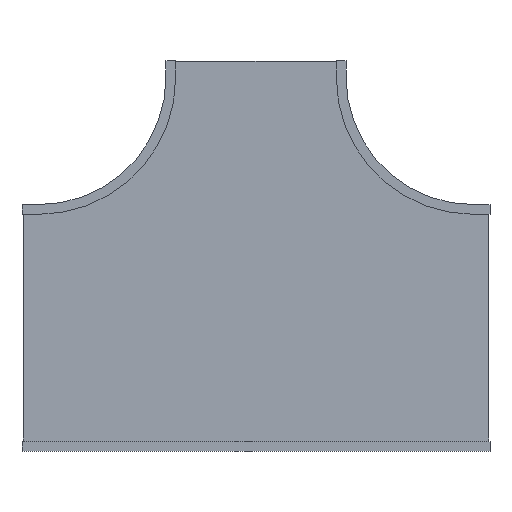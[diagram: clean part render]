
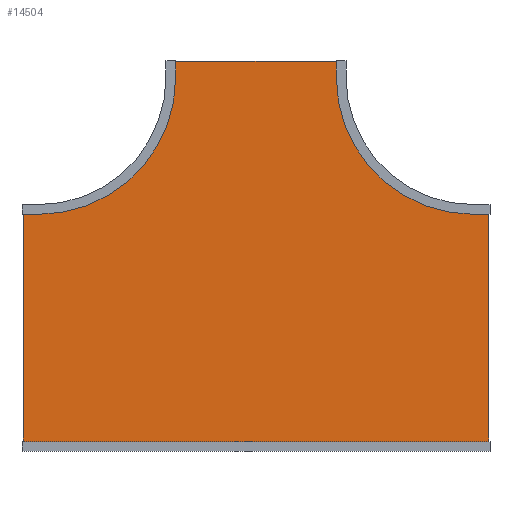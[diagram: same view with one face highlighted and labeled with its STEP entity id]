
A CAD part, front view. The second image highlights one B-rep face of the part: STEP entity #14504.
In plain terms, the highlighted planar face has unit normal (0, -1, 0).
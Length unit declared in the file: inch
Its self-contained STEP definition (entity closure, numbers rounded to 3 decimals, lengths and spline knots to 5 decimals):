
#14313=DIRECTION('',(1.,0.,0.));
#14314=VECTOR('',#14313,29.875);
#14315=CARTESIAN_POINT('',(-14.9375,0.,0.));
#14316=LINE('',#14315,#14314);
#14317=DIRECTION('',(0.,0.,-1.));
#14318=VECTOR('',#14317,2.875);
#14319=CARTESIAN_POINT('',(14.9375,0.,0.));
#14320=LINE('',#14319,#14318);
#14321=CARTESIAN_POINT('',(39.,0.,-2.875));
#14322=DIRECTION('',(0.,-1.,0.));
#14323=DIRECTION('',(-1.,0.,0.));
#14324=AXIS2_PLACEMENT_3D('',#14321,#14322,#14323);
#14326=DIRECTION('',(1.,0.,0.));
#14327=VECTOR('',#14326,2.875);
#14328=CARTESIAN_POINT('',(39.,0.,-26.9375));
#14329=LINE('',#14328,#14327);
#14330=DIRECTION('',(0.,0.,-1.));
#14331=VECTOR('',#14330,41.875);
#14332=CARTESIAN_POINT('',(41.875,0.,-26.9375));
#14333=LINE('',#14332,#14331);
#14334=DIRECTION('',(-1.,0.,0.));
#14335=VECTOR('',#14334,83.75);
#14336=CARTESIAN_POINT('',(41.875,0.,-68.8125));
#14337=LINE('',#14336,#14335);
#14338=DIRECTION('',(0.,0.,1.));
#14339=VECTOR('',#14338,41.875);
#14340=CARTESIAN_POINT('',(-41.875,0.,-68.8125));
#14341=LINE('',#14340,#14339);
#14342=DIRECTION('',(1.,0.,0.));
#14343=VECTOR('',#14342,2.875);
#14344=CARTESIAN_POINT('',(-41.875,0.,-26.9375));
#14345=LINE('',#14344,#14343);
#14346=CARTESIAN_POINT('',(-39.,0.,-2.875));
#14347=DIRECTION('',(0.,-1.,0.));
#14348=DIRECTION('',(0.,0.,-1.));
#14349=AXIS2_PLACEMENT_3D('',#14346,#14347,#14348);
#14351=DIRECTION('',(0.,0.,1.));
#14352=VECTOR('',#14351,2.875);
#14353=CARTESIAN_POINT('',(-14.9375,0.,-2.875));
#14354=LINE('',#14353,#14352);
#14437=CARTESIAN_POINT('',(-14.9375,0.,0.));
#14438=CARTESIAN_POINT('',(14.9375,0.,0.));
#14439=VERTEX_POINT('',#14437);
#14440=VERTEX_POINT('',#14438);
#14441=CARTESIAN_POINT('',(14.9375,0.,-2.875));
#14442=VERTEX_POINT('',#14441);
#14443=CARTESIAN_POINT('',(39.,0.,-26.9375));
#14444=VERTEX_POINT('',#14443);
#14445=CARTESIAN_POINT('',(41.875,0.,-26.9375));
#14446=VERTEX_POINT('',#14445);
#14447=CARTESIAN_POINT('',(41.875,0.,-68.8125));
#14448=VERTEX_POINT('',#14447);
#14449=CARTESIAN_POINT('',(-41.875,0.,-68.8125));
#14450=VERTEX_POINT('',#14449);
#14451=CARTESIAN_POINT('',(-41.875,0.,-26.9375));
#14452=VERTEX_POINT('',#14451);
#14453=CARTESIAN_POINT('',(-39.,0.,-26.9375));
#14454=VERTEX_POINT('',#14453);
#14455=CARTESIAN_POINT('',(-14.9375,0.,-2.875));
#14456=VERTEX_POINT('',#14455);
#14477=CARTESIAN_POINT('',(0.,0.,0.));
#14478=DIRECTION('',(0.,1.,0.));
#14479=DIRECTION('',(1.,0.,0.));
#14480=AXIS2_PLACEMENT_3D('',#14477,#14478,#14479);
#14481=PLANE('',#14480);
#14483=ORIENTED_EDGE('',*,*,#14482,.T.);
#14485=ORIENTED_EDGE('',*,*,#14484,.T.);
#14487=ORIENTED_EDGE('',*,*,#14486,.T.);
#14489=ORIENTED_EDGE('',*,*,#14488,.T.);
#14491=ORIENTED_EDGE('',*,*,#14490,.T.);
#14493=ORIENTED_EDGE('',*,*,#14492,.T.);
#14495=ORIENTED_EDGE('',*,*,#14494,.T.);
#14497=ORIENTED_EDGE('',*,*,#14496,.T.);
#14499=ORIENTED_EDGE('',*,*,#14498,.T.);
#14501=ORIENTED_EDGE('',*,*,#14500,.T.);
#14502=EDGE_LOOP('',(#14483,#14485,#14487,#14489,#14491,#14493,#14495,#14497,
#14499,#14501));
#14503=FACE_OUTER_BOUND('',#14502,.F.);
#14504=ADVANCED_FACE('',(#14503),#14481,.F.);
#14325=CIRCLE('',#14324,24.0625);
#14350=CIRCLE('',#14349,24.0625);
#14482=EDGE_CURVE('',#14439,#14440,#14316,.T.);
#14484=EDGE_CURVE('',#14440,#14442,#14320,.T.);
#14486=EDGE_CURVE('',#14442,#14444,#14325,.T.);
#14488=EDGE_CURVE('',#14444,#14446,#14329,.T.);
#14490=EDGE_CURVE('',#14446,#14448,#14333,.T.);
#14492=EDGE_CURVE('',#14448,#14450,#14337,.T.);
#14494=EDGE_CURVE('',#14450,#14452,#14341,.T.);
#14496=EDGE_CURVE('',#14452,#14454,#14345,.T.);
#14498=EDGE_CURVE('',#14454,#14456,#14350,.T.);
#14500=EDGE_CURVE('',#14456,#14439,#14354,.T.);
